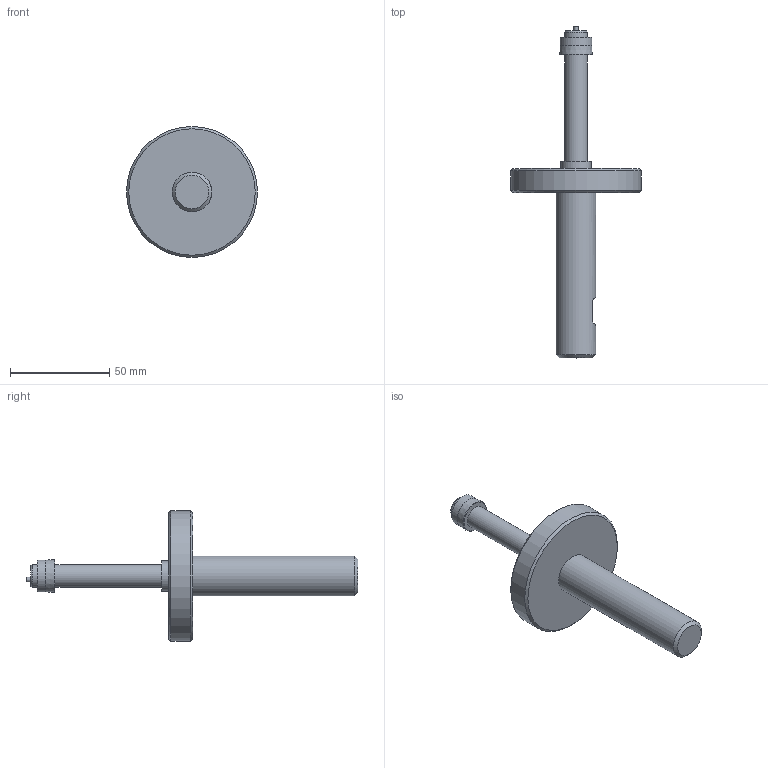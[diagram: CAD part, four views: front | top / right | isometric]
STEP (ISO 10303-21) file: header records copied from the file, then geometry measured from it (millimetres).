
FILE_DESCRIPTION (( 'STEP AP203' ), '1' );
FILE_NAME ('AF44-SIMPLE - AF44-11.50M-16.50M.step', '2025-01-21T15:04:44', ( '' ), ( '' ), 'SwSTEP 2.0', 'SolidWorks 2024', '' );
FILE_SCHEMA (( 'CONFIG_CONTROL_DESIGN' ));
Length unit declared in the file: inch
Products named in the file (1): AF44-SIMPLE - AF44-11.50M-16.50M
Bounding box: 66.04 x 167.39 x 66.04 mm (x, y, z)
Volume: 75706.4 mm3; surface area: 17148.2 mm2
Topology: 1 solids, 1 shells, 24 faces, 40 edges, 25 vertices
Faces by surface type: plane 11, cylinder 7, cone 5, torus 1
Full cylindrical faces by diameter (mm): 2.286 x1, 11.379 x2, 15.24 x1, 15.994 x1, 20 x1, 66.04 x1
Entity records: 569 total; most frequent: DIRECTION 94, CARTESIAN_POINT 81, ORIENTED_EDGE 52, AXIS2_PLACEMENT_3D 45, EDGE_LOOP 44, FACE_OUTER_BOUND 32, EDGE_CURVE 26, ADVANCED_FACE 24
